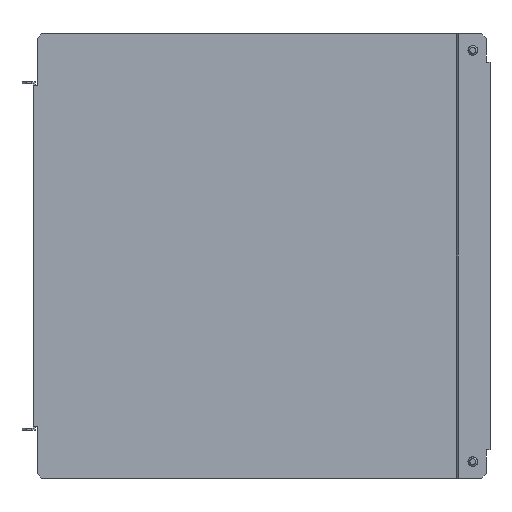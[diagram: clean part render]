
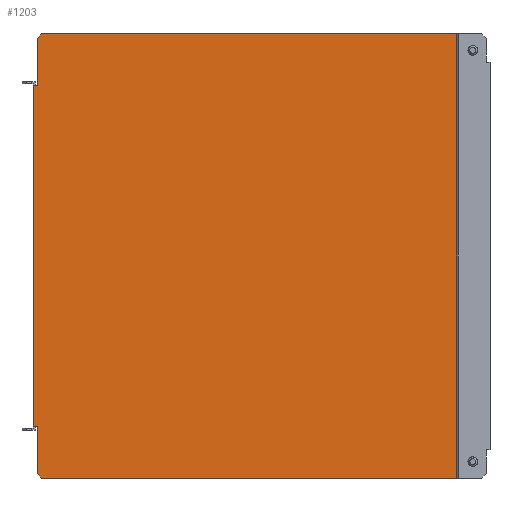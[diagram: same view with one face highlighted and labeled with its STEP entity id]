
A CAD part, front view. The second image highlights one B-rep face of the part: STEP entity #1203.
In plain terms, the highlighted planar face has unit normal (0, -1, 0).
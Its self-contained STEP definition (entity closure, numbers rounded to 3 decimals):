
#115 = DIRECTION ( 'NONE',  ( 1., 0., 0. ) ) ;
#155 = DIRECTION ( 'NONE',  ( 0., 0., 1. ) ) ;
#156 = CARTESIAN_POINT ( 'NONE',  ( -300.5, 1.5, 148.5 ) ) ;
#205 = EDGE_CURVE ( 'NONE', #3438, #3461, #2729, .T. ) ;
#225 = LINE ( 'NONE', #3484, #566 ) ;
#272 = VERTEX_POINT ( 'NONE', #2455 ) ;
#277 = CARTESIAN_POINT ( 'NONE',  ( -223., 1.5, 223. ) ) ;
#324 = VERTEX_POINT ( 'NONE', #889 ) ;
#375 = VECTOR ( 'NONE', #1959, 1000. ) ;
#380 = VECTOR ( 'NONE', #2372, 1000. ) ;
#413 = CARTESIAN_POINT ( 'NONE',  ( 0., 1.5, 148.5 ) ) ;
#442 = VERTEX_POINT ( 'NONE', #3256 ) ;
#463 = LINE ( 'NONE', #2092, #1110 ) ;
#566 = VECTOR ( 'NONE', #1851, 1000. ) ;
#580 = LINE ( 'NONE', #277, #3297 ) ;
#617 = EDGE_CURVE ( 'NONE', #3408, #4180, #2404, .T. ) ;
#646 = LINE ( 'NONE', #3547, #375 ) ;
#663 = ORIENTED_EDGE ( 'NONE', *, *, #2090, .T. ) ;
#722 = EDGE_CURVE ( 'NONE', #4198, #3731, #225, .T. ) ;
#753 = LINE ( 'NONE', #3720, #2758 ) ;
#799 = CARTESIAN_POINT ( 'NONE',  ( -303.3, 1.5, 114. ) ) ;
#816 = CARTESIAN_POINT ( 'NONE',  ( -300.8, 1.5, -114. ) ) ;
#823 = CARTESIAN_POINT ( 'NONE',  ( -300.8, 1.5, 114. ) ) ;
#888 = DIRECTION ( 'NONE',  ( 0., 0., -1. ) ) ;
#889 = CARTESIAN_POINT ( 'NONE',  ( -300.5, 1.5, -145.5 ) ) ;
#928 = ORIENTED_EDGE ( 'NONE', *, *, #1911, .F. ) ;
#988 = VERTEX_POINT ( 'NONE', #3810 ) ;
#1048 = VECTOR ( 'NONE', #2768, 1000. ) ;
#1050 = ORIENTED_EDGE ( 'NONE', *, *, #2071, .T. ) ;
#1059 = CARTESIAN_POINT ( 'NONE',  ( -20.925, 1.5, 148.5 ) ) ;
#1104 = VECTOR ( 'NONE', #1167, 1000. ) ;
#1108 = DIRECTION ( 'NONE',  ( -1., 0., 0. ) ) ;
#1110 = VECTOR ( 'NONE', #3386, 1000. ) ;
#1167 = DIRECTION ( 'NONE',  ( 1., 0., 0. ) ) ;
#1203 = ADVANCED_FACE ( 'NONE', ( #2642 ), #2936, .T. ) ;
#1245 = EDGE_CURVE ( 'NONE', #1990, #3620, #753, .T. ) ;
#1266 = ORIENTED_EDGE ( 'NONE', *, *, #2714, .F. ) ;
#1357 = DIRECTION ( 'NONE',  ( 0., -1., 0. ) ) ;
#1494 = EDGE_CURVE ( 'NONE', #988, #272, #646, .T. ) ;
#1538 = VECTOR ( 'NONE', #888, 1000. ) ;
#1578 = LINE ( 'NONE', #2878, #1538 ) ;
#1678 = EDGE_CURVE ( 'NONE', #3438, #3620, #3070, .T. ) ;
#1739 = VERTEX_POINT ( 'NONE', #2689 ) ;
#1771 = EDGE_CURVE ( 'NONE', #3375, #442, #2036, .T. ) ;
#1851 = DIRECTION ( 'NONE',  ( -1., 0., 0. ) ) ;
#1886 = LINE ( 'NONE', #2902, #3914 ) ;
#1911 = EDGE_CURVE ( 'NONE', #3408, #1990, #463, .T. ) ;
#1959 = DIRECTION ( 'NONE',  ( 0., 0., 1. ) ) ;
#1987 = CARTESIAN_POINT ( 'NONE',  ( -300.5, 1.5, -148.5 ) ) ;
#1990 = VERTEX_POINT ( 'NONE', #3154 ) ;
#2023 = VECTOR ( 'NONE', #1108, 1000. ) ;
#2036 = LINE ( 'NONE', #1987, #380 ) ;
#2071 = EDGE_CURVE ( 'NONE', #4180, #324, #1578, .T. ) ;
#2090 = EDGE_CURVE ( 'NONE', #324, #3375, #1886, .T. ) ;
#2092 = CARTESIAN_POINT ( 'NONE',  ( 0., 1.5, -114. ) ) ;
#2115 = CARTESIAN_POINT ( 'NONE',  ( -300.8, 1.5, -114. ) ) ;
#2127 = DIRECTION ( 'NONE',  ( 1., 0., 0. ) ) ;
#2273 = VECTOR ( 'NONE', #2127, 1000. ) ;
#2323 = DIRECTION ( 'NONE',  ( -1., 0., 0. ) ) ;
#2330 = EDGE_CURVE ( 'NONE', #1739, #3461, #3355, .T. ) ;
#2372 = DIRECTION ( 'NONE',  ( 1., 0., 0. ) ) ;
#2388 = CARTESIAN_POINT ( 'NONE',  ( -300.5, 1.5, -114. ) ) ;
#2392 = CARTESIAN_POINT ( 'NONE',  ( -297.5, 1.5, -148.5 ) ) ;
#2404 = LINE ( 'NONE', #816, #2273 ) ;
#2416 = ORIENTED_EDGE ( 'NONE', *, *, #1494, .T. ) ;
#2442 = ORIENTED_EDGE ( 'NONE', *, *, #205, .F. ) ;
#2455 = CARTESIAN_POINT ( 'NONE',  ( -20.511, 1.5, 148.5 ) ) ;
#2567 = DIRECTION ( 'NONE',  ( -0.707, 0., -0.707 ) ) ;
#2579 = CARTESIAN_POINT ( 'NONE',  ( 0., 1.5, 0. ) ) ;
#2642 = FACE_OUTER_BOUND ( 'NONE', #3860, .T. ) ;
#2689 = CARTESIAN_POINT ( 'NONE',  ( -300.5, 1.5, 145.5 ) ) ;
#2714 = EDGE_CURVE ( 'NONE', #4198, #272, #3057, .T. ) ;
#2716 = ORIENTED_EDGE ( 'NONE', *, *, #1771, .T. ) ;
#2729 = LINE ( 'NONE', #3387, #1104 ) ;
#2733 = ORIENTED_EDGE ( 'NONE', *, *, #2330, .T. ) ;
#2758 = VECTOR ( 'NONE', #155, 1000. ) ;
#2768 = DIRECTION ( 'NONE',  ( 0., 0., -1. ) ) ;
#2782 = ORIENTED_EDGE ( 'NONE', *, *, #1678, .T. ) ;
#2801 = ORIENTED_EDGE ( 'NONE', *, *, #1245, .F. ) ;
#2845 = CARTESIAN_POINT ( 'NONE',  ( -300.5, 1.5, 114. ) ) ;
#2875 = CARTESIAN_POINT ( 'NONE',  ( -297.5, 1.5, 148.5 ) ) ;
#2878 = CARTESIAN_POINT ( 'NONE',  ( -300.5, 1.5, 148.5 ) ) ;
#2902 = CARTESIAN_POINT ( 'NONE',  ( -223., 1.5, -223. ) ) ;
#2936 = PLANE ( 'NONE',  #3432 ) ;
#2963 = VECTOR ( 'NONE', #115, 1000. ) ;
#3010 = CARTESIAN_POINT ( 'NONE',  ( -20.925, 1.5, -148.5 ) ) ;
#3057 = LINE ( 'NONE', #413, #2963 ) ;
#3070 = LINE ( 'NONE', #4023, #2023 ) ;
#3090 = LINE ( 'NONE', #3010, #4174 ) ;
#3103 = EDGE_CURVE ( 'NONE', #442, #988, #3090, .T. ) ;
#3154 = CARTESIAN_POINT ( 'NONE',  ( -303.3, 1.5, -114. ) ) ;
#3241 = ORIENTED_EDGE ( 'NONE', *, *, #617, .T. ) ;
#3256 = CARTESIAN_POINT ( 'NONE',  ( -20.925, 1.5, -148.5 ) ) ;
#3297 = VECTOR ( 'NONE', #2567, 1000. ) ;
#3355 = LINE ( 'NONE', #156, #1048 ) ;
#3373 = ORIENTED_EDGE ( 'NONE', *, *, #722, .T. ) ;
#3375 = VERTEX_POINT ( 'NONE', #2392 ) ;
#3386 = DIRECTION ( 'NONE',  ( -1., 0., 0. ) ) ;
#3387 = CARTESIAN_POINT ( 'NONE',  ( -300.8, 1.5, 114. ) ) ;
#3408 = VERTEX_POINT ( 'NONE', #2115 ) ;
#3432 = AXIS2_PLACEMENT_3D ( 'NONE', #2579, #1357, #2323 ) ;
#3438 = VERTEX_POINT ( 'NONE', #823 ) ;
#3461 = VERTEX_POINT ( 'NONE', #2845 ) ;
#3484 = CARTESIAN_POINT ( 'NONE',  ( 0., 1.5, 148.5 ) ) ;
#3541 = EDGE_CURVE ( 'NONE', #3731, #1739, #580, .T. ) ;
#3547 = CARTESIAN_POINT ( 'NONE',  ( -20.511, 1.5, 0. ) ) ;
#3620 = VERTEX_POINT ( 'NONE', #799 ) ;
#3720 = CARTESIAN_POINT ( 'NONE',  ( -303.3, 1.5, 0. ) ) ;
#3731 = VERTEX_POINT ( 'NONE', #2875 ) ;
#3810 = CARTESIAN_POINT ( 'NONE',  ( -20.511, 1.5, -148.5 ) ) ;
#3860 = EDGE_LOOP ( 'NONE', ( #3373, #3924, #2733, #2442, #2782, #2801, #928, #3241, #1050, #663, #2716, #4082, #2416, #1266 ) ) ;
#3914 = VECTOR ( 'NONE', #4166, 1000. ) ;
#3924 = ORIENTED_EDGE ( 'NONE', *, *, #3541, .T. ) ;
#4023 = CARTESIAN_POINT ( 'NONE',  ( -300.8, 1.5, 114. ) ) ;
#4082 = ORIENTED_EDGE ( 'NONE', *, *, #3103, .T. ) ;
#4088 = DIRECTION ( 'NONE',  ( 1., 0., 0. ) ) ;
#4166 = DIRECTION ( 'NONE',  ( 0.707, 0., -0.707 ) ) ;
#4174 = VECTOR ( 'NONE', #4088, 1000. ) ;
#4180 = VERTEX_POINT ( 'NONE', #2388 ) ;
#4198 = VERTEX_POINT ( 'NONE', #1059 ) ;
